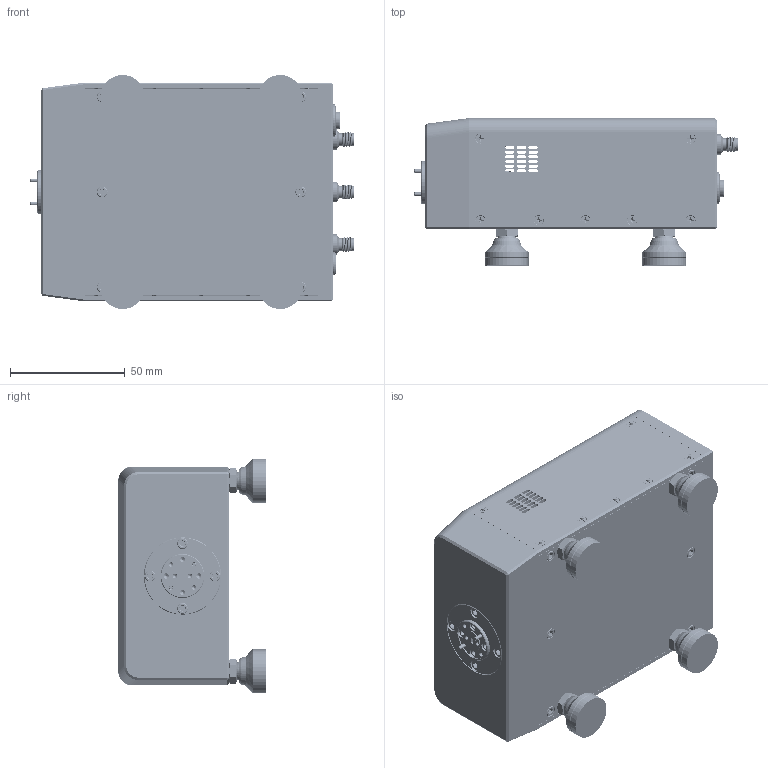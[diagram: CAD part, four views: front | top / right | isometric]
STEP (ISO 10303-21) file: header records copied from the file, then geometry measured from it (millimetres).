
FILE_DESCRIPTION (( 'STEP AP203' ), '1' );
FILE_NAME ('TO-TW-A.STEP', '2024-09-30T21:41:24', ( '' ), ( '' ), 'SwSTEP 2.0', 'SolidWorks 2021', '' );
FILE_SCHEMA (( 'CONFIG_CONTROL_DESIGN' ));
Products named in the file (1): TO-TW-A
Bounding box: 140.66 x 64.14 x 101.85 mm (x, y, z)
Volume: 190968.6 mm3; surface area: 128041.7 mm2
Topology: 75 solids, 75 shells, 4207 faces, 11176 edges, 7111 vertices
Faces by surface type: cylinder 2019, plane 989, cone 791, bspline 363, sphere 37, torus 8
Entity records: 247904 total; most frequent: CARTESIAN_POINT 154855, ORIENTED_EDGE 21938, DIRECTION 16711, EDGE_CURVE 10969, VERTEX_POINT 7081, AXIS2_PLACEMENT_3D 6358, EDGE_LOOP 4604, ADVANCED_FACE 4207
